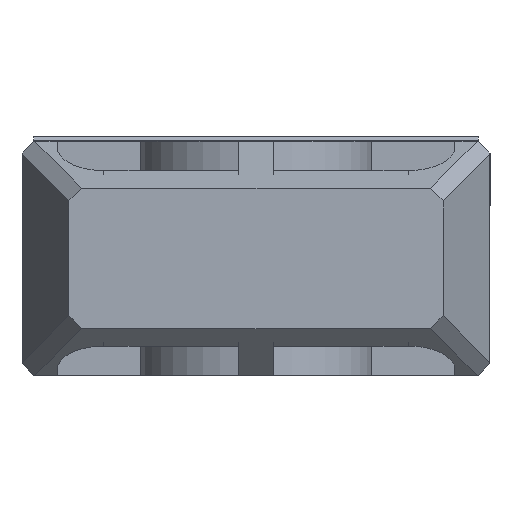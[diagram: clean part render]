
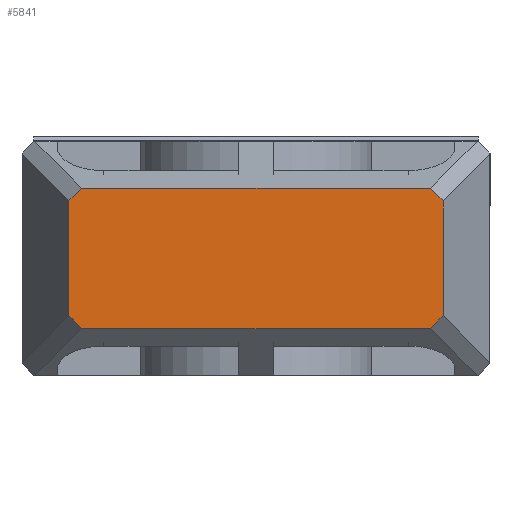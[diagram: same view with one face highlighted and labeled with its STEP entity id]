
A CAD part, left-side view. The second image highlights one B-rep face of the part: STEP entity #5841.
In plain terms, the highlighted planar face has unit normal (-1, 0, 0).
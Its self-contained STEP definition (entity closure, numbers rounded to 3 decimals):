
#99 = EDGE_CURVE ( 'NONE', #1777, #6989, #3899, .T. ) ;
#319 = VERTEX_POINT ( 'NONE', #815 ) ;
#389 = ORIENTED_EDGE ( 'NONE', *, *, #6100, .T. ) ;
#513 = CARTESIAN_POINT ( 'NONE',  ( -43.5, -31., 8.407 ) ) ;
#545 = EDGE_CURVE ( 'NONE', #1777, #4792, #2193, .T. ) ;
#596 = AXIS2_PLACEMENT_3D ( 'NONE', #3641, #5754, #880 ) ;
#815 = CARTESIAN_POINT ( 'NONE',  ( -43.5, -15.548, 8.955 ) ) ;
#868 = EDGE_CURVE ( 'NONE', #3907, #4792, #910, .T. ) ;
#873 = VECTOR ( 'NONE', #1074, 1000. ) ;
#880 = DIRECTION ( 'NONE',  ( 0., -1., 0. ) ) ;
#910 = LINE ( 'NONE', #3073, #2116 ) ;
#919 = EDGE_CURVE ( 'NONE', #3653, #3499, #1036, .T. ) ;
#1036 = LINE ( 'NONE', #513, #873 ) ;
#1074 = DIRECTION ( 'NONE',  ( 0., 0.707, 0.707 ) ) ;
#1127 = CARTESIAN_POINT ( 'NONE',  ( -43.5, -13., 8.955 ) ) ;
#1185 = CARTESIAN_POINT ( 'NONE',  ( -43.5, -31., 8.407 ) ) ;
#1232 = CARTESIAN_POINT ( 'NONE',  ( -43.5, -15.548, 2.955 ) ) ;
#1607 = ORIENTED_EDGE ( 'NONE', *, *, #2147, .T. ) ;
#1639 = LINE ( 'NONE', #2852, #3821 ) ;
#1674 = CARTESIAN_POINT ( 'NONE',  ( -43.5, -15., 3.502 ) ) ;
#1678 = VECTOR ( 'NONE', #3393, 1000. ) ;
#1725 = CARTESIAN_POINT ( 'NONE',  ( -43.5, -15.548, 2.955 ) ) ;
#1777 = VERTEX_POINT ( 'NONE', #1725 ) ;
#1941 = ORIENTED_EDGE ( 'NONE', *, *, #545, .F. ) ;
#2015 = PLANE ( 'NONE',  #596 ) ;
#2116 = VECTOR ( 'NONE', #2548, 1000. ) ;
#2147 = EDGE_CURVE ( 'NONE', #319, #3907, #1639, .T. ) ;
#2193 = LINE ( 'NONE', #1232, #1678 ) ;
#2548 = DIRECTION ( 'NONE',  ( 0., 0., -1. ) ) ;
#2793 = DIRECTION ( 'NONE',  ( 0., 1., 0. ) ) ;
#2818 = DIRECTION ( 'NONE',  ( 0., 0.707, -0.707 ) ) ;
#2852 = CARTESIAN_POINT ( 'NONE',  ( -43.5, -15.548, 8.955 ) ) ;
#2867 = VECTOR ( 'NONE', #2793, 1000. ) ;
#2921 = LINE ( 'NONE', #6307, #4222 ) ;
#2987 = ORIENTED_EDGE ( 'NONE', *, *, #919, .T. ) ;
#3073 = CARTESIAN_POINT ( 'NONE',  ( -43.5, -15., 0.955 ) ) ;
#3361 = LINE ( 'NONE', #1127, #2867 ) ;
#3380 = VECTOR ( 'NONE', #5546, 1000. ) ;
#3393 = DIRECTION ( 'NONE',  ( 0., 0.707, 0.707 ) ) ;
#3499 = VERTEX_POINT ( 'NONE', #3699 ) ;
#3513 = LINE ( 'NONE', #5700, #4879 ) ;
#3520 = ORIENTED_EDGE ( 'NONE', *, *, #868, .T. ) ;
#3641 = CARTESIAN_POINT ( 'NONE',  ( -43.5, -13., 0.955 ) ) ;
#3653 = VERTEX_POINT ( 'NONE', #1185 ) ;
#3699 = CARTESIAN_POINT ( 'NONE',  ( -43.5, -30.452, 8.955 ) ) ;
#3821 = VECTOR ( 'NONE', #2818, 1000. ) ;
#3869 = EDGE_LOOP ( 'NONE', ( #6764, #1607, #3520, #1941, #6009, #389, #6920, #2987 ) ) ;
#3899 = LINE ( 'NONE', #5005, #3380 ) ;
#3907 = VERTEX_POINT ( 'NONE', #5238 ) ;
#4222 = VECTOR ( 'NONE', #5133, 1000. ) ;
#4285 = EDGE_CURVE ( 'NONE', #4977, #3653, #3513, .T. ) ;
#4792 = VERTEX_POINT ( 'NONE', #1674 ) ;
#4879 = VECTOR ( 'NONE', #5162, 1000. ) ;
#4977 = VERTEX_POINT ( 'NONE', #5268 ) ;
#5005 = CARTESIAN_POINT ( 'NONE',  ( -43.5, -13., 2.955 ) ) ;
#5133 = DIRECTION ( 'NONE',  ( 0., -0.707, 0.707 ) ) ;
#5162 = DIRECTION ( 'NONE',  ( 0., 0., 1. ) ) ;
#5238 = CARTESIAN_POINT ( 'NONE',  ( -43.5, -15., 8.407 ) ) ;
#5268 = CARTESIAN_POINT ( 'NONE',  ( -43.5, -31., 3.502 ) ) ;
#5321 = CARTESIAN_POINT ( 'NONE',  ( -43.5, -30.452, 2.955 ) ) ;
#5546 = DIRECTION ( 'NONE',  ( 0., -1., 0. ) ) ;
#5700 = CARTESIAN_POINT ( 'NONE',  ( -43.5, -31., 0.955 ) ) ;
#5754 = DIRECTION ( 'NONE',  ( -1., 0., 0. ) ) ;
#5841 = ADVANCED_FACE ( 'NONE', ( #6891 ), #2015, .T. ) ;
#6009 = ORIENTED_EDGE ( 'NONE', *, *, #99, .T. ) ;
#6100 = EDGE_CURVE ( 'NONE', #6989, #4977, #2921, .T. ) ;
#6307 = CARTESIAN_POINT ( 'NONE',  ( -43.5, -30.452, 2.955 ) ) ;
#6736 = EDGE_CURVE ( 'NONE', #3499, #319, #3361, .T. ) ;
#6764 = ORIENTED_EDGE ( 'NONE', *, *, #6736, .T. ) ;
#6891 = FACE_OUTER_BOUND ( 'NONE', #3869, .T. ) ;
#6920 = ORIENTED_EDGE ( 'NONE', *, *, #4285, .T. ) ;
#6989 = VERTEX_POINT ( 'NONE', #5321 ) ;
